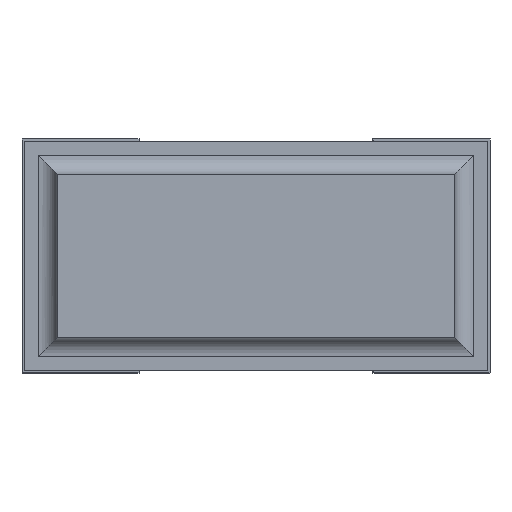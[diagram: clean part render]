
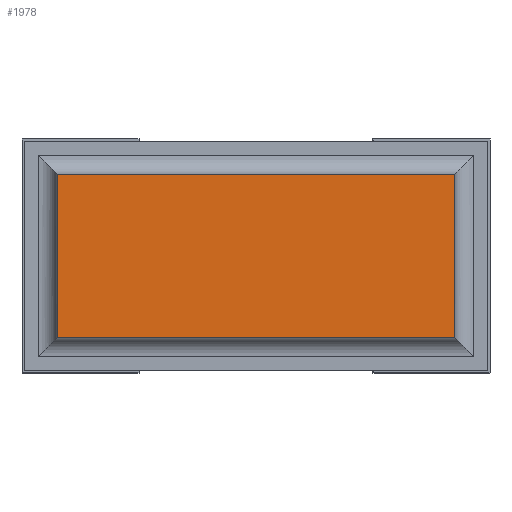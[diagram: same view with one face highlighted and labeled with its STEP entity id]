
A CAD part, front view. The second image highlights one B-rep face of the part: STEP entity #1978.
In plain terms, the highlighted planar face has unit normal (0, -1, 0).
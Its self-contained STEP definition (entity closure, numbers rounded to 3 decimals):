
#60=PLANE('',#2146);
#176=FACE_OUTER_BOUND('',#301,.T.);
#301=EDGE_LOOP('',(#1563,#1564,#1565,#1566));
#451=LINE('',#2963,#703);
#459=LINE('',#2986,#711);
#467=LINE('',#2999,#719);
#468=LINE('',#3001,#720);
#703=VECTOR('',#2421,10.);
#711=VECTOR('',#2439,10.);
#719=VECTOR('',#2453,10.);
#720=VECTOR('',#2456,10.);
#963=VERTEX_POINT('',#2959);
#964=VERTEX_POINT('',#2961);
#973=VERTEX_POINT('',#2983);
#974=VERTEX_POINT('',#2985);
#1175=EDGE_CURVE('',#963,#964,#451,.T.);
#1185=EDGE_CURVE('',#973,#974,#459,.T.);
#1193=EDGE_CURVE('',#963,#973,#467,.T.);
#1194=EDGE_CURVE('',#974,#964,#468,.T.);
#1563=ORIENTED_EDGE('',*,*,#1185,.F.);
#1564=ORIENTED_EDGE('',*,*,#1193,.F.);
#1565=ORIENTED_EDGE('',*,*,#1175,.T.);
#1566=ORIENTED_EDGE('',*,*,#1194,.F.);
#1978=ADVANCED_FACE('',(#176),#60,.T.);
#2146=AXIS2_PLACEMENT_3D('',#3000,#2454,#2455);
#2421=DIRECTION('',(0.,0.,-1.));
#2439=DIRECTION('',(0.,0.,-1.));
#2453=DIRECTION('',(1.,0.,0.));
#2454=DIRECTION('center_axis',(0.,-1.,0.));
#2455=DIRECTION('ref_axis',(0.,0.,-1.));
#2456=DIRECTION('',(-1.,0.,0.));
#2959=CARTESIAN_POINT('',(0.075,0.,0.425));
#2961=CARTESIAN_POINT('',(0.075,0.,0.075));
#2963=CARTESIAN_POINT('',(0.075,0.,0.425));
#2983=CARTESIAN_POINT('',(0.925,0.,0.425));
#2985=CARTESIAN_POINT('',(0.925,0.,0.075));
#2986=CARTESIAN_POINT('',(0.925,0.,0.425));
#2999=CARTESIAN_POINT('',(0.075,0.,0.425));
#3000=CARTESIAN_POINT('Origin',(0.926,0.,
0.25));
#3001=CARTESIAN_POINT('',(0.925,0.,0.075));
